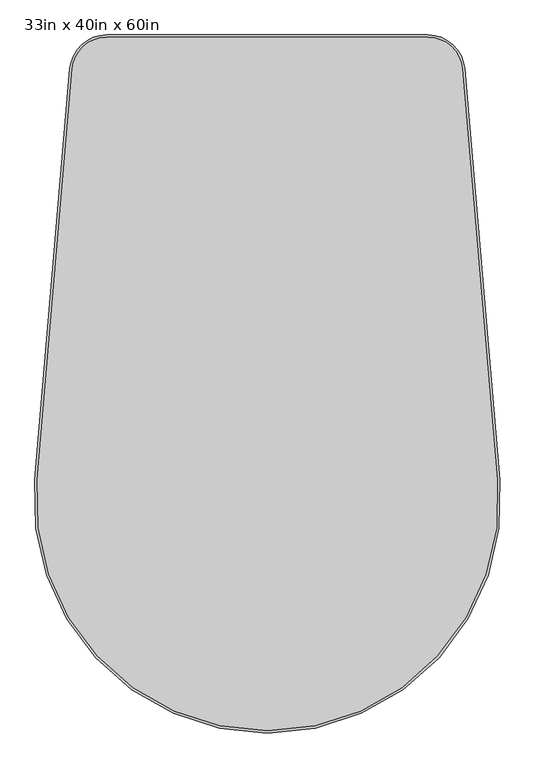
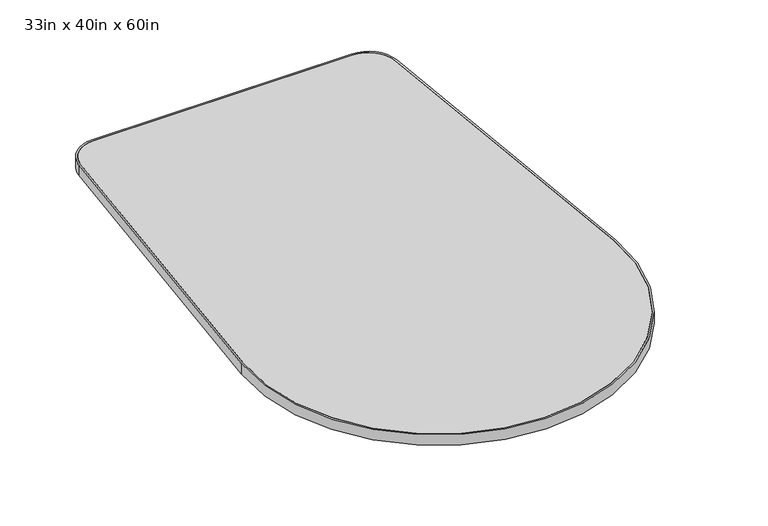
"""IFC4 building model written with IfcOpenShell, lengths in millimetres: furniture geometry, Steelcase - Answer Solution - Universal Table - Tapered Peninsula : 33in x 40in x 60in."""

from ifc_helpers import new_model, si_unit, point, frame, frame_2d, origin, place, context, project, spatial, polyline, circle_curve, trimmed, segment, composite_curve, outline, extrude, source, transform, mapped, element, save


def furniture_33in_x_40in_x_60in_bd0d3fa8(model_context):
    return source(origin(), model_context, "Body", "SweptSolid", [
        extrude(outline(composite_curve([segment(polyline([(-353.3061716, 0.0), (353.3061659, 0.0)]), True, "CONTINUOUS"), segment(trimmed(circle_curve(frame_2d((353.3061659, -81.28)), 81.28), [point((353.3061659, 0.0))], [point((434.2928512, -74.3810726))], False, "CARTESIAN"), True, "CONTINUOUS"), segment(polyline([(434.2928512, -74.3810726), (511.2284761, -977.5303444)]), True, "CONTINUOUS"), segment(trimmed(circle_curve(frame_2d((2.5e-05, -1021.0798235)), 513.08), [point((511.2284761, -977.5303444))], [point((-511.2284288, -977.5303757))], False, "CARTESIAN"), True, "CONTINUOUS"), segment(polyline([(-511.2284288, -977.5303757), (-434.2928573, -74.3810776)]), True, "CONTINUOUS"), segment(trimmed(circle_curve(frame_2d((-353.3061716, -81.28)), 81.28), [point((-434.2928573, -74.3810776))], [point((-353.3061716, 0.0))], False, "CARTESIAN"), True, "CONTINUOUS")], self_intersect=False), holes=[composite_curve([segment(polyline([(506.1668083, -977.9615274), (429.2311834, -74.8122556)]), True, "CONTINUOUS"), segment(trimmed(circle_curve(frame_2d((353.3061659, -81.28)), 76.2), [point((429.2311834, -74.8122556))], [point((353.3061659, -5.08))], True, "CARTESIAN"), True, "CONTINUOUS"), segment(polyline([(353.3061659, -5.08), (-353.3061716, -5.08)]), True, "CONTINUOUS"), segment(trimmed(circle_curve(frame_2d((-353.3061716, -81.28)), 76.2), [point((-353.3061716, -5.08))], [point((-429.2311895, -74.8122602))], True, "CARTESIAN"), True, "CONTINUOUS"), segment(polyline([(-429.2311895, -74.8122602), (-506.166761, -977.9615584)]), True, "CONTINUOUS"), segment(trimmed(circle_curve(frame_2d((2.5e-05, -1021.0798235)), 508.0), [point((-506.166761, -977.9615584))], [point((506.1668083, -977.9615274))], True, "CARTESIAN"), True, "CONTINUOUS")], self_intersect=False)]), frame((0.0, 0.0, 668.274), z_axis=(0.0, 0.0, 1.0), x_axis=(1.0, 0.0, 0.0)), (0.0, 0.0, 1.0), 30.0990349),
        extrude(outline(composite_curve([segment(polyline([(-506.166761, -977.9615584), (-429.2311895, -74.8122602)]), True, "CONTINUOUS"), segment(trimmed(circle_curve(frame_2d((-353.3061716, -81.28)), 76.2), [point((-429.2311895, -74.8122602))], [point((-353.3061716, -5.08))], False, "CARTESIAN"), True, "CONTINUOUS"), segment(polyline([(-353.3061716, -5.08), (353.3061659, -5.08)]), True, "CONTINUOUS"), segment(trimmed(circle_curve(frame_2d((353.3061659, -81.28)), 76.2), [point((353.3061659, -5.08))], [point((429.2311834, -74.8122556))], False, "CARTESIAN"), True, "CONTINUOUS"), segment(polyline([(429.2311834, -74.8122556), (506.1668083, -977.9615274)]), True, "CONTINUOUS"), segment(trimmed(circle_curve(frame_2d((2.5e-05, -1021.0798235)), 508.0), [point((506.1668083, -977.9615274))], [point((-506.166761, -977.9615584))], False, "CARTESIAN"), True, "CONTINUOUS")], self_intersect=False)), frame((0.0, 0.0, 668.274), z_axis=(0.0, 0.0, 1.0), x_axis=(1.0, 0.0, 0.0)), (0.0, 0.0, 1.0), 30.0990349),
    ])


if __name__ == "__main__":
    model = new_model("IFC4")
    model_context = context("Model", 3, world=origin())
    ifc_project = project(units=[si_unit("LENGTHUNIT", "METRE", prefix="MILLI")], contexts=[model_context])
    site = spatial("IfcSite", under=ifc_project)
    building = spatial("IfcBuilding", under=site)
    placement = place(None, origin())
    furniture_33in_x_40in_x_60in_shape = furniture_33in_x_40in_x_60in_bd0d3fa8(model_context)
    element("IfcFurniture", 1, ObjectType="Steelcase - Answer Solution - Universal Table - Tapered Peninsula : 33in x 40in x 60in", at=placement, inside=building, context=model_context, shape_type="MappedRepresentation", body=[
        mapped(furniture_33in_x_40in_x_60in_shape, transform((0.0, 0.0, 0.0), x_axis=(1.0, 0.0, 0.0), y_axis=(0.0, 1.0, 0.0), z_axis=(0.0, 0.0, 1.0))),
    ])
    save(model, "model.ifc")
